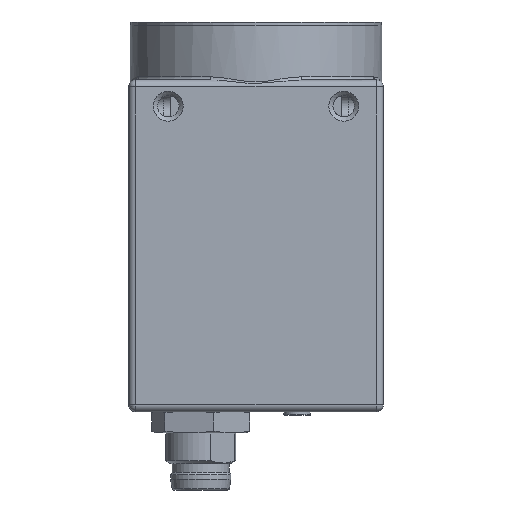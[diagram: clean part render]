
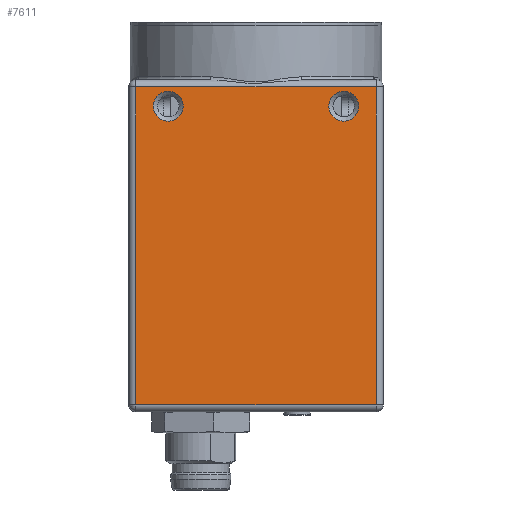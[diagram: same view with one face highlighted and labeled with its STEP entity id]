
A CAD part, left-side view. The second image highlights one B-rep face of the part: STEP entity #7611.
In plain terms, the highlighted planar face has unit normal (-1, 0, 0).
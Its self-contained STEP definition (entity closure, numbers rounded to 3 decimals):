
#7611 = ADVANCED_FACE( '', ( #16501, #16502, #16503 ), #16504, .T. );
#16501 = FACE_BOUND( '', #28541, .T. );
#16502 = FACE_BOUND( '', #28542, .T. );
#16503 = FACE_OUTER_BOUND( '', #28543, .T. );
#16504 = PLANE( '', #28544 );
#28541 = EDGE_LOOP( '', ( #50479 ) );
#28542 = EDGE_LOOP( '', ( #50480 ) );
#28543 = EDGE_LOOP( '', ( #50481, #50482, #50483, #50484 ) );
#28544 = AXIS2_PLACEMENT_3D( '', #50485, #50486, #50487 );
#50479 = ORIENTED_EDGE( '', *, *, #67231, .T. );
#50480 = ORIENTED_EDGE( '', *, *, #66686, .T. );
#50481 = ORIENTED_EDGE( '', *, *, #66746, .T. );
#50482 = ORIENTED_EDGE( '', *, *, #59396, .T. );
#50483 = ORIENTED_EDGE( '', *, *, #64158, .T. );
#50484 = ORIENTED_EDGE( '', *, *, #65091, .T. );
#50485 = CARTESIAN_POINT( '', ( -14.5, -14.5, 12.2 ) );
#50486 = DIRECTION( '', ( -1., 0., 0. ) );
#50487 = DIRECTION( '', ( 0., 0., 1. ) );
#59396 = EDGE_CURVE( '', #69301, #69299, #69302, .F. );
#64158 = EDGE_CURVE( '', #69299, #77145, #77147, .T. );
#65091 = EDGE_CURVE( '', #77145, #78523, #78525, .T. );
#66686 = EDGE_CURVE( '', #80706, #80706, #80707, .T. );
#66746 = EDGE_CURVE( '', #78523, #69301, #80782, .T. );
#67231 = EDGE_CURVE( '', #81380, #81380, #81381, .T. );
#69299 = VERTEX_POINT( '', #83744 );
#69301 = VERTEX_POINT( '', #83746 );
#69302 = LINE( '', #83747, #83748 );
#77145 = VERTEX_POINT( '', #95580 );
#77147 = LINE( '', #95582, #95583 );
#78523 = VERTEX_POINT( '', #97620 );
#78525 = LINE( '', #97622, #97623 );
#80706 = VERTEX_POINT( '', #100903 );
#80707 = CIRCLE( '', #100904, 1.7 );
#80782 = LINE( '', #101016, #101017 );
#81380 = VERTEX_POINT( '', #101938 );
#81381 = CIRCLE( '', #101939, 1.7 );
#83744 = CARTESIAN_POINT( '', ( -14.5, -13.7, 11.4 ) );
#83746 = CARTESIAN_POINT( '', ( -14.5, -13.7, -24.85 ) );
#83747 = CARTESIAN_POINT( '', ( -14.5, -13.7, 12.2 ) );
#83748 = VECTOR( '', #104889, 1000. );
#95580 = CARTESIAN_POINT( '', ( -14.5, 13.7, 11.4 ) );
#95582 = CARTESIAN_POINT( '', ( -14.5, 14.5, 11.4 ) );
#95583 = VECTOR( '', #110421, 1000. );
#97620 = CARTESIAN_POINT( '', ( -14.5, 13.7, -24.85 ) );
#97622 = CARTESIAN_POINT( '', ( -14.5, 13.7, 12.2 ) );
#97623 = VECTOR( '', #111435, 1000. );
#100903 = CARTESIAN_POINT( '', ( -14.5, 11.7, 9.2 ) );
#100904 = AXIS2_PLACEMENT_3D( '', #113149, #113150, #113151 );
#101016 = CARTESIAN_POINT( '', ( -14.5, -14.5, -24.85 ) );
#101017 = VECTOR( '', #113208, 1000. );
#101938 = CARTESIAN_POINT( '', ( -14.5, -8.3, 9.2 ) );
#101939 = AXIS2_PLACEMENT_3D( '', #113668, #113669, #113670 );
#104889 = DIRECTION( '', ( 0., 0., -1. ) );
#110421 = DIRECTION( '', ( 0., 1., 0. ) );
#111435 = DIRECTION( '', ( 0., 0., -1. ) );
#113149 = CARTESIAN_POINT( '', ( -14.5, 10., 9.2 ) );
#113150 = DIRECTION( '', ( 1., 0., 0. ) );
#113151 = DIRECTION( '', ( 0., 1., 0. ) );
#113208 = DIRECTION( '', ( 0., -1., 0. ) );
#113668 = CARTESIAN_POINT( '', ( -14.5, -10., 9.2 ) );
#113669 = DIRECTION( '', ( 1., 0., 0. ) );
#113670 = DIRECTION( '', ( 0., 1., 0. ) );
